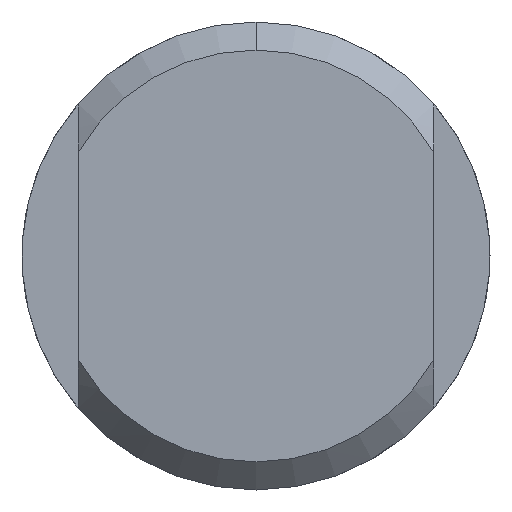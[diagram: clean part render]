
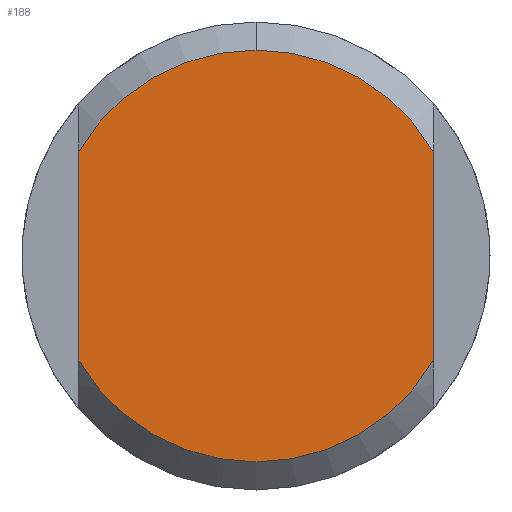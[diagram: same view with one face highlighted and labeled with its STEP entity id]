
A CAD part, front view. The second image highlights one B-rep face of the part: STEP entity #188.
In plain terms, the highlighted planar face has unit normal (0, -1, 0).
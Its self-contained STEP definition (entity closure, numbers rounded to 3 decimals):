
#16 = DIRECTION ( 'NONE',  ( 0., 0., -1. ) ) ;
#24 = DIRECTION ( 'NONE',  ( 0., -1., 0. ) ) ;
#76 = DIRECTION ( 'NONE',  ( 0., -1., 0. ) ) ;
#80 = DIRECTION ( 'NONE',  ( 0., -1., 0. ) ) ;
#83 = EDGE_CURVE ( 'NONE', #125, #330, #582, .T. ) ;
#93 = LINE ( 'NONE', #138, #353 ) ;
#98 = EDGE_CURVE ( 'NONE', #148, #243, #93, .T. ) ;
#125 = VERTEX_POINT ( 'NONE', #349 ) ;
#138 = CARTESIAN_POINT ( 'NONE',  ( -9.5, -5.5, 8.124 ) ) ;
#144 = DIRECTION ( 'NONE',  ( 0., -1., 0. ) ) ;
#148 = VERTEX_POINT ( 'NONE', #288 ) ;
#150 = ORIENTED_EDGE ( 'NONE', *, *, #347, .T. ) ;
#172 = CARTESIAN_POINT ( 'NONE',  ( 9.5, -5.5, -5.545 ) ) ;
#186 = CARTESIAN_POINT ( 'NONE',  ( 0., -5.5, 11. ) ) ;
#188 = ADVANCED_FACE ( 'NONE', ( #300 ), #520, .T. ) ;
#230 = DIRECTION ( 'NONE',  ( 0., 0., -1. ) ) ;
#235 = LINE ( 'NONE', #463, #248 ) ;
#240 = EDGE_CURVE ( 'NONE', #243, #559, #275, .T. ) ;
#241 = CARTESIAN_POINT ( 'NONE',  ( 0., -5.5, 0. ) ) ;
#243 = VERTEX_POINT ( 'NONE', #644 ) ;
#247 = AXIS2_PLACEMENT_3D ( 'NONE', #584, #144, #304 ) ;
#248 = VECTOR ( 'NONE', #16, 1000. ) ;
#275 = CIRCLE ( 'NONE', #664, 11. ) ;
#280 = ORIENTED_EDGE ( 'NONE', *, *, #240, .T. ) ;
#288 = CARTESIAN_POINT ( 'NONE',  ( -9.5, -5.5, 5.545 ) ) ;
#300 = FACE_OUTER_BOUND ( 'NONE', #446, .T. ) ;
#304 = DIRECTION ( 'NONE',  ( 0., 0., -1. ) ) ;
#330 = VERTEX_POINT ( 'NONE', #186 ) ;
#347 = EDGE_CURVE ( 'NONE', #330, #148, #442, .T. ) ;
#349 = CARTESIAN_POINT ( 'NONE',  ( 9.5, -5.5, 5.545 ) ) ;
#353 = VECTOR ( 'NONE', #362, 1000. ) ;
#357 = CARTESIAN_POINT ( 'NONE',  ( 0., -5.5, 0. ) ) ;
#362 = DIRECTION ( 'NONE',  ( 0., 0., -1. ) ) ;
#368 = AXIS2_PLACEMENT_3D ( 'NONE', #241, #24, #230 ) ;
#371 = CARTESIAN_POINT ( 'NONE',  ( 0., -5.5, 0. ) ) ;
#384 = ORIENTED_EDGE ( 'NONE', *, *, #579, .F. ) ;
#442 = CIRCLE ( 'NONE', #247, 11. ) ;
#446 = EDGE_LOOP ( 'NONE', ( #601, #280, #384, #612, #150 ) ) ;
#463 = CARTESIAN_POINT ( 'NONE',  ( 9.5, -5.5, 8.124 ) ) ;
#478 = AXIS2_PLACEMENT_3D ( 'NONE', #371, #80, #481 ) ;
#481 = DIRECTION ( 'NONE',  ( 0., 0., -1. ) ) ;
#520 = PLANE ( 'NONE',  #368 ) ;
#559 = VERTEX_POINT ( 'NONE', #172 ) ;
#579 = EDGE_CURVE ( 'NONE', #125, #559, #235, .T. ) ;
#582 = CIRCLE ( 'NONE', #478, 11. ) ;
#584 = CARTESIAN_POINT ( 'NONE',  ( 0., -5.5, 0. ) ) ;
#586 = DIRECTION ( 'NONE',  ( 0., 0., -1. ) ) ;
#601 = ORIENTED_EDGE ( 'NONE', *, *, #98, .T. ) ;
#612 = ORIENTED_EDGE ( 'NONE', *, *, #83, .T. ) ;
#644 = CARTESIAN_POINT ( 'NONE',  ( -9.5, -5.5, -5.545 ) ) ;
#664 = AXIS2_PLACEMENT_3D ( 'NONE', #357, #76, #586 ) ;
